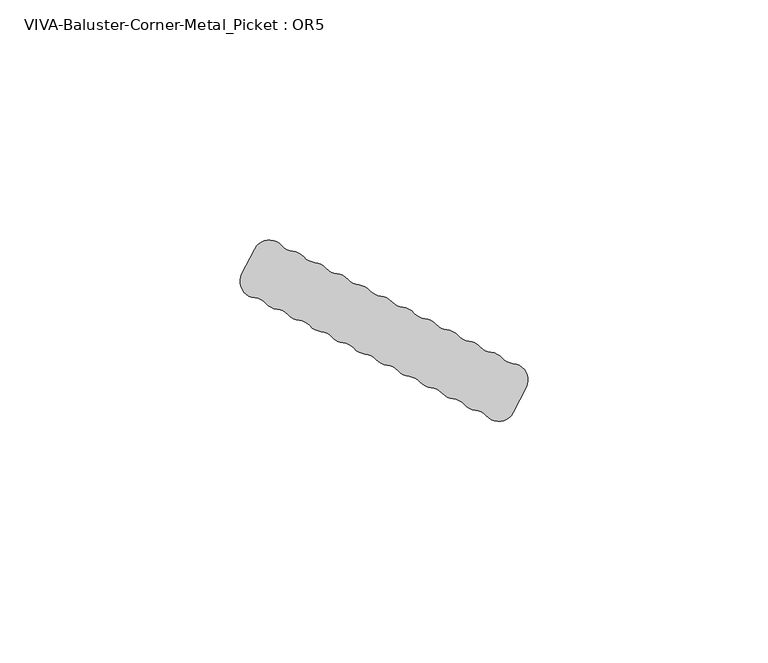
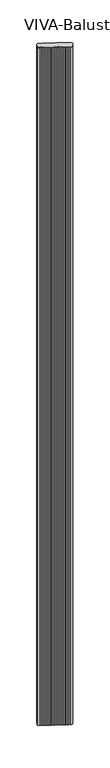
"""IFC4 building model written with IfcOpenShell, lengths in millimetres: railing geometry, VIVA-Baluster-Corner-Metal_Picket : OR5."""

from ifc_helpers import new_model, si_unit, frame, origin, place, context, project, spatial, polyline, circle_curve, source, transform, mapped, element, save
from ifc_brep_helpers import plane_surface, cylinder_surface, revolved_surface, advanced_brep


def viva_baluster_corner_metal_picket_or5_473d95c6(model_context):
    return source(origin(), model_context, "Body", "AdvancedBrep", [
        advanced_brep(
        [(51.8588779, 335.7330868, 1219.2), (54.5034557, 340.923363, 1219.2), (51.7410872, 345.9081721, 1219.2), (49.4477504, 347.0766856, 1219.2), (47.1544137, 348.245199, 1219.2), (44.861077, 349.4137124, 1219.2), (42.5677403, 350.5822258, 1219.2), (40.2744036, 351.7507392, 1219.2), (37.9810669, 352.9192527, 1219.2), (35.6877302, 354.0877661, 1219.2), (33.3943935, 355.2562795, 1219.2), (31.1010568, 356.4247929, 1219.2), (28.8077201, 357.5933063, 1219.2), (26.5143833, 358.7618197, 1219.2), (24.2210466, 359.9303332, 1219.2), (21.9277099, 361.0988466, 1219.2), (19.6343732, 362.26736, 1219.2), (17.3410365, 363.4358734, 1219.2), (15.0476998, 364.6043868, 1219.2), (12.7543631, 365.7729002, 1219.2), (10.4610264, 366.9414137, 1219.2), (8.1676897, 368.1099271, 1219.2), (5.874353, 369.2784405, 1219.2), (3.5810163, 370.4469539, 1219.2), (-2.0754586, 369.7517597, 1219.2), (-4.7200364, 364.5614835, 1219.2), (-1.9576678, 359.5766743, 1219.2), (0.3356689, 358.4081609, 1219.2), (2.6290056, 357.2396475, 1219.2), (4.9223423, 356.0711341, 1219.2), (7.215679, 354.9026207, 1219.2), (9.5090157, 353.7341072, 1219.2), (11.8023524, 352.5655938, 1219.2), (14.0956891, 351.3970804, 1219.2), (16.3890258, 350.228567, 1219.2), (18.6823625, 349.0600536, 1219.2), (20.9756993, 347.8915401, 1219.2), (23.269036, 346.7230267, 1219.2), (25.5623727, 345.5545133, 1219.2), (27.8557094, 344.3859999, 1219.2), (30.1490461, 343.2174865, 1219.2), (32.4423828, 342.0489731, 1219.2), (34.7357195, 340.8804596, 1219.2), (37.0290562, 339.7119462, 1219.2), (39.3223929, 338.5434328, 1219.2), (41.6157296, 337.3749194, 1219.2), (43.9090663, 336.206406, 1219.2), (46.2024031, 335.0378926, 1219.2), (51.8588779, 335.7330868, -245.8945017), (46.2024031, 335.0378926, -245.8945017), (43.9090663, 336.206406, -245.8945017), (41.6157296, 337.3749194, -245.8945017), (39.3223929, 338.5434328, -245.8945017), (37.0290562, 339.7119462, -245.8945017), (34.7357195, 340.8804596, -245.8945017), (32.4423828, 342.0489731, -245.8945017), (30.1490461, 343.2174865, -245.8945017), (27.8557094, 344.3859999, -245.8945017), (25.5623727, 345.5545133, -245.8945017), (23.269036, 346.7230267, -245.8945017), (20.9756993, 347.8915401, -245.8945017), (18.6823625, 349.0600536, -245.8945017), (16.3890258, 350.228567, -245.8945017), (14.0956891, 351.3970804, -245.8945017), (11.8023524, 352.5655938, -245.8945017), (9.5090157, 353.7341072, -245.8945017), (7.215679, 354.9026207, -245.8945017), (4.9223423, 356.0711341, -245.8945017), (2.6290056, 357.2396475, -245.8945017), (0.3356689, 358.4081609, -245.8945017), (-1.9576678, 359.5766743, -245.8945017), (-4.7200364, 364.5614835, -245.8945017), (-2.0754586, 369.7517597, -245.8945017), (3.5810163, 370.4469539, -245.8945017), (5.874353, 369.2784405, -245.8945017), (8.1676897, 368.1099271, -245.8945017), (10.4610264, 366.9414137, -245.8945017), (12.7543631, 365.7729002, -245.8945017), (15.0476998, 364.6043868, -245.8945017), (17.3410365, 363.4358734, -245.8945017), (19.6343732, 362.26736, -245.8945017), (21.9277099, 361.0988466, -245.8945017), (24.2210466, 359.9303332, -245.8945017), (26.5143833, 358.7618197, -245.8945017), (28.8077201, 357.5933063, -245.8945017), (31.1010568, 356.4247929, -245.8945017), (33.3943935, 355.2562795, -245.8945017), (35.6877302, 354.0877661, -245.8945017), (37.9810669, 352.9192527, -245.8945017), (40.2744036, 351.7507392, -245.8945017), (42.5677403, 350.5822258, -245.8945017), (44.861077, 349.4137124, -245.8945017), (47.1544137, 348.245199, -245.8945017), (49.4477504, 347.0766856, -245.8945017), (51.7410872, 345.9081721, -245.8945017), (54.5034557, 340.923363, -245.8945017)],
        [
            (0, 1),
            (1, 2, circle_curve(frame((51.4407024, 342.4839137, 1219.2), z_axis=(0.0, 0.0, 1.0), x_axis=(1.0, 0.0, 0.0)), 3.4374084)),
            (2, 3, circle_curve(frame((52.0414719, 349.3324306, 1219.2), z_axis=(0.0, 0.0, -1.0), x_axis=(1.0, 0.0, 0.0)), 3.4374084)),
            (3, 4, circle_curve(frame((46.8540289, 344.8209406, 1219.2), z_axis=(0.0, 0.0, 1.0), x_axis=(1.0, 0.0, 0.0)), 3.4374084)),
            (4, 5, circle_curve(frame((47.4547985, 351.6694574, 1219.2), z_axis=(0.0, 0.0, -1.0), x_axis=(1.0, 0.0, 0.0)), 3.4374084)),
            (5, 6, circle_curve(frame((42.2673555, 347.1579674, 1219.2), z_axis=(0.0, 0.0, 1.0), x_axis=(1.0, 0.0, 0.0)), 3.4374084)),
            (6, 7, circle_curve(frame((42.8681251, 354.0064842, 1219.2), z_axis=(0.0, 0.0, -1.0), x_axis=(1.0, 0.0, 0.0)), 3.4374084)),
            (7, 8, circle_curve(frame((37.6806821, 349.4949942, 1219.2), z_axis=(0.0, 0.0, 1.0), x_axis=(1.0, 0.0, 0.0)), 3.4374084)),
            (8, 9, circle_curve(frame((38.2814517, 356.3435111, 1219.2), z_axis=(0.0, 0.0, -1.0), x_axis=(1.0, 0.0, 0.0)), 3.4374084)),
            (9, 10, circle_curve(frame((33.0940087, 351.8320211, 1219.2), z_axis=(0.0, 0.0, 1.0), x_axis=(1.0, 0.0, 0.0)), 3.4374084)),
            (10, 11, circle_curve(frame((33.6947783, 358.6805379, 1219.2), z_axis=(0.0, 0.0, -1.0), x_axis=(1.0, 0.0, 0.0)), 3.4374084)),
            (11, 12, circle_curve(frame((28.5073353, 354.1690479, 1219.2), z_axis=(0.0, 0.0, 1.0), x_axis=(1.0, 0.0, 0.0)), 3.4374084)),
            (12, 13, circle_curve(frame((29.1081049, 361.0175647, 1219.2), z_axis=(0.0, 0.0, -1.0), x_axis=(1.0, 0.0, 0.0)), 3.4374084)),
            (13, 14, circle_curve(frame((23.9206618, 356.5060747, 1219.2), z_axis=(0.0, 0.0, 1.0), x_axis=(1.0, 0.0, 0.0)), 3.4374084)),
            (14, 15, circle_curve(frame((24.5214314, 363.3545916, 1219.2), z_axis=(0.0, 0.0, -1.0), x_axis=(1.0, 0.0, 0.0)), 3.4374084)),
            (15, 16, circle_curve(frame((19.3339884, 358.8431016, 1219.2), z_axis=(0.0, 0.0, 1.0), x_axis=(1.0, 0.0, 0.0)), 3.4374084)),
            (16, 17, circle_curve(frame((19.934758, 365.6916184, 1219.2), z_axis=(0.0, 0.0, -1.0), x_axis=(1.0, 0.0, 0.0)), 3.4374084)),
            (17, 18, circle_curve(frame((14.747315, 361.1801284, 1219.2), z_axis=(0.0, 0.0, 1.0), x_axis=(1.0, 0.0, 0.0)), 3.4374084)),
            (18, 19, circle_curve(frame((15.3480846, 368.0286452, 1219.2), z_axis=(0.0, 0.0, -1.0), x_axis=(1.0, 0.0, 0.0)), 3.4374084)),
            (19, 20, circle_curve(frame((10.1606416, 363.5171552, 1219.2), z_axis=(0.0, 0.0, 1.0), x_axis=(1.0, 0.0, 0.0)), 3.4374084)),
            (20, 21, circle_curve(frame((10.7614112, 370.3656721, 1219.2), z_axis=(0.0, 0.0, -1.0), x_axis=(1.0, 0.0, 0.0)), 3.4374084)),
            (21, 22, circle_curve(frame((5.5739682, 365.8541821, 1219.2), z_axis=(0.0, 0.0, 1.0), x_axis=(1.0, 0.0, 0.0)), 3.4374084)),
            (22, 23, circle_curve(frame((6.1747378, 372.7026989, 1219.2), z_axis=(0.0, 0.0, -1.0), x_axis=(1.0, 0.0, 0.0)), 3.4374084)),
            (23, 24, circle_curve(frame((0.9872948, 368.1912089, 1219.2), z_axis=(0.0, 0.0, 1.0), x_axis=(1.0, 0.0, 0.0)), 3.4374084)),
            (24, 25),
            (25, 26, circle_curve(frame((-1.657283, 363.0009327, 1219.2), z_axis=(0.0, 0.0, 1.0), x_axis=(1.0, 0.0, 0.0)), 3.4374084)),
            (26, 27, circle_curve(frame((-2.2580526, 356.1524159, 1219.2), z_axis=(0.0, 0.0, -1.0), x_axis=(1.0, 0.0, 0.0)), 3.4374084)),
            (27, 28, circle_curve(frame((2.9293904, 360.6639059, 1219.2), z_axis=(0.0, 0.0, 1.0), x_axis=(1.0, 0.0, 0.0)), 3.4374084)),
            (28, 29, circle_curve(frame((2.3286208, 353.8153891, 1219.2), z_axis=(0.0, 0.0, -1.0), x_axis=(1.0, 0.0, 0.0)), 3.4374084)),
            (29, 30, circle_curve(frame((7.5160638, 358.3268791, 1219.2), z_axis=(0.0, 0.0, 1.0), x_axis=(1.0, 0.0, 0.0)), 3.4374084)),
            (30, 31, circle_curve(frame((6.9152942, 351.4783622, 1219.2), z_axis=(0.0, 0.0, -1.0), x_axis=(1.0, 0.0, 0.0)), 3.4374084)),
            (31, 32, circle_curve(frame((12.1027372, 355.9898522, 1219.2), z_axis=(0.0, 0.0, 1.0), x_axis=(1.0, 0.0, 0.0)), 3.4374084)),
            (32, 33, circle_curve(frame((11.5019676, 349.1413354, 1219.2), z_axis=(0.0, 0.0, -1.0), x_axis=(1.0, 0.0, 0.0)), 3.4374084)),
            (33, 34, circle_curve(frame((16.6894106, 353.6528254, 1219.2), z_axis=(0.0, 0.0, 1.0), x_axis=(1.0, 0.0, 0.0)), 3.4374084)),
            (34, 35, circle_curve(frame((16.088641, 346.8043086, 1219.2), z_axis=(0.0, 0.0, -1.0), x_axis=(1.0, 0.0, 0.0)), 3.4374084)),
            (35, 36, circle_curve(frame((21.276084, 351.3157986, 1219.2), z_axis=(0.0, 0.0, 1.0), x_axis=(1.0, 0.0, 0.0)), 3.4374084)),
            (36, 37, circle_curve(frame((20.6753145, 344.4672817, 1219.2), z_axis=(0.0, 0.0, -1.0), x_axis=(1.0, 0.0, 0.0)), 3.4374084)),
            (37, 38, circle_curve(frame((25.8627575, 348.9787717, 1219.2), z_axis=(0.0, 0.0, 1.0), x_axis=(1.0, 0.0, 0.0)), 3.4374084)),
            (38, 39, circle_curve(frame((25.2619879, 342.1302549, 1219.2), z_axis=(0.0, 0.0, -1.0), x_axis=(1.0, 0.0, 0.0)), 3.4374084)),
            (39, 40, circle_curve(frame((30.4494309, 346.6417449, 1219.2), z_axis=(0.0, 0.0, 1.0), x_axis=(1.0, 0.0, 0.0)), 3.4374084)),
            (40, 41, circle_curve(frame((29.8486613, 339.7932281, 1219.2), z_axis=(0.0, 0.0, -1.0), x_axis=(1.0, 0.0, 0.0)), 3.4374084)),
            (41, 42, circle_curve(frame((35.0361043, 344.3047181, 1219.2), z_axis=(0.0, 0.0, 1.0), x_axis=(1.0, 0.0, 0.0)), 3.4374084)),
            (42, 43, circle_curve(frame((34.4353347, 337.4562012, 1219.2), z_axis=(0.0, 0.0, -1.0), x_axis=(1.0, 0.0, 0.0)), 3.4374084)),
            (43, 44, circle_curve(frame((39.6227777, 341.9676912, 1219.2), z_axis=(0.0, 0.0, 1.0), x_axis=(1.0, 0.0, 0.0)), 3.4374084)),
            (44, 45, circle_curve(frame((39.0220081, 335.1191744, 1219.2), z_axis=(0.0, 0.0, -1.0), x_axis=(1.0, 0.0, 0.0)), 3.4374084)),
            (45, 46, circle_curve(frame((44.2094511, 339.6306644, 1219.2), z_axis=(0.0, 0.0, 1.0), x_axis=(1.0, 0.0, 0.0)), 3.4374084)),
            (46, 47, circle_curve(frame((43.6086816, 332.7821476, 1219.2), z_axis=(0.0, 0.0, -1.0), x_axis=(1.0, 0.0, 0.0)), 3.4374084)),
            (47, 0, circle_curve(frame((48.7961246, 337.2936376, 1219.2), z_axis=(0.0, 0.0, 1.0), x_axis=(1.0, 0.0, 0.0)), 3.4374084)),
            (48, 49, circle_curve(frame((48.7961246, 337.2936376, -245.8945017), z_axis=(0.0, 0.0, -1.0), x_axis=(1.0, 0.0, 0.0)), 3.4374084)),
            (49, 50, circle_curve(frame((43.6086816, 332.7821476, -245.8945017), z_axis=(0.0, 0.0, 1.0), x_axis=(1.0, 0.0, 0.0)), 3.4374084)),
            (50, 51, circle_curve(frame((44.2094511, 339.6306644, -245.8945017), z_axis=(0.0, 0.0, -1.0), x_axis=(1.0, 0.0, 0.0)), 3.4374084)),
            (51, 52, circle_curve(frame((39.0220081, 335.1191744, -245.8945017), z_axis=(0.0, 0.0, 1.0), x_axis=(1.0, 0.0, 0.0)), 3.4374084)),
            (52, 53, circle_curve(frame((39.6227777, 341.9676912, -245.8945017), z_axis=(0.0, 0.0, -1.0), x_axis=(1.0, 0.0, 0.0)), 3.4374084)),
            (53, 54, circle_curve(frame((34.4353347, 337.4562012, -245.8945017), z_axis=(0.0, 0.0, 1.0), x_axis=(1.0, 0.0, 0.0)), 3.4374084)),
            (54, 55, circle_curve(frame((35.0361043, 344.3047181, -245.8945017), z_axis=(0.0, 0.0, -1.0), x_axis=(1.0, 0.0, 0.0)), 3.4374084)),
            (55, 56, circle_curve(frame((29.8486613, 339.7932281, -245.8945017), z_axis=(0.0, 0.0, 1.0), x_axis=(1.0, 0.0, 0.0)), 3.4374084)),
            (56, 57, circle_curve(frame((30.4494309, 346.6417449, -245.8945017), z_axis=(0.0, 0.0, -1.0), x_axis=(1.0, 0.0, 0.0)), 3.4374084)),
            (57, 58, circle_curve(frame((25.2619879, 342.1302549, -245.8945017), z_axis=(0.0, 0.0, 1.0), x_axis=(1.0, 0.0, 0.0)), 3.4374084)),
            (58, 59, circle_curve(frame((25.8627575, 348.9787717, -245.8945017), z_axis=(0.0, 0.0, -1.0), x_axis=(1.0, 0.0, 0.0)), 3.4374084)),
            (59, 60, circle_curve(frame((20.6753145, 344.4672817, -245.8945017), z_axis=(0.0, 0.0, 1.0), x_axis=(1.0, 0.0, 0.0)), 3.4374084)),
            (60, 61, circle_curve(frame((21.276084, 351.3157986, -245.8945017), z_axis=(0.0, 0.0, -1.0), x_axis=(1.0, 0.0, 0.0)), 3.4374084)),
            (61, 62, circle_curve(frame((16.088641, 346.8043086, -245.8945017), z_axis=(0.0, 0.0, 1.0), x_axis=(1.0, 0.0, 0.0)), 3.4374084)),
            (62, 63, circle_curve(frame((16.6894106, 353.6528254, -245.8945017), z_axis=(0.0, 0.0, -1.0), x_axis=(1.0, 0.0, 0.0)), 3.4374084)),
            (63, 64, circle_curve(frame((11.5019676, 349.1413354, -245.8945017), z_axis=(0.0, 0.0, 1.0), x_axis=(1.0, 0.0, 0.0)), 3.4374084)),
            (64, 65, circle_curve(frame((12.1027372, 355.9898522, -245.8945017), z_axis=(0.0, 0.0, -1.0), x_axis=(1.0, 0.0, 0.0)), 3.4374084)),
            (65, 66, circle_curve(frame((6.9152942, 351.4783622, -245.8945017), z_axis=(0.0, 0.0, 1.0), x_axis=(1.0, 0.0, 0.0)), 3.4374084)),
            (66, 67, circle_curve(frame((7.5160638, 358.3268791, -245.8945017), z_axis=(0.0, 0.0, -1.0), x_axis=(1.0, 0.0, 0.0)), 3.4374084)),
            (67, 68, circle_curve(frame((2.3286208, 353.8153891, -245.8945017), z_axis=(0.0, 0.0, 1.0), x_axis=(1.0, 0.0, 0.0)), 3.4374084)),
            (68, 69, circle_curve(frame((2.9293904, 360.6639059, -245.8945017), z_axis=(0.0, 0.0, -1.0), x_axis=(1.0, 0.0, 0.0)), 3.4374084)),
            (69, 70, circle_curve(frame((-2.2580526, 356.1524159, -245.8945017), z_axis=(0.0, 0.0, 1.0), x_axis=(1.0, 0.0, 0.0)), 3.4374084)),
            (70, 71, circle_curve(frame((-1.657283, 363.0009327, -245.8945017), z_axis=(0.0, 0.0, -1.0), x_axis=(1.0, 0.0, 0.0)), 3.4374084)),
            (71, 72),
            (72, 73, circle_curve(frame((0.9872948, 368.1912089, -245.8945017), z_axis=(0.0, 0.0, -1.0), x_axis=(1.0, 0.0, 0.0)), 3.4374084)),
            (73, 74, circle_curve(frame((6.1747378, 372.7026989, -245.8945017), z_axis=(0.0, 0.0, 1.0), x_axis=(1.0, 0.0, 0.0)), 3.4374084)),
            (74, 75, circle_curve(frame((5.5739682, 365.8541821, -245.8945017), z_axis=(0.0, 0.0, -1.0), x_axis=(1.0, 0.0, 0.0)), 3.4374084)),
            (75, 76, circle_curve(frame((10.7614112, 370.3656721, -245.8945017), z_axis=(0.0, 0.0, 1.0), x_axis=(1.0, 0.0, 0.0)), 3.4374084)),
            (76, 77, circle_curve(frame((10.1606416, 363.5171552, -245.8945017), z_axis=(0.0, 0.0, -1.0), x_axis=(1.0, 0.0, 0.0)), 3.4374084)),
            (77, 78, circle_curve(frame((15.3480846, 368.0286452, -245.8945017), z_axis=(0.0, 0.0, 1.0), x_axis=(1.0, 0.0, 0.0)), 3.4374084)),
            (78, 79, circle_curve(frame((14.747315, 361.1801284, -245.8945017), z_axis=(0.0, 0.0, -1.0), x_axis=(1.0, 0.0, 0.0)), 3.4374084)),
            (79, 80, circle_curve(frame((19.934758, 365.6916184, -245.8945017), z_axis=(0.0, 0.0, 1.0), x_axis=(1.0, 0.0, 0.0)), 3.4374084)),
            (80, 81, circle_curve(frame((19.3339884, 358.8431016, -245.8945017), z_axis=(0.0, 0.0, -1.0), x_axis=(1.0, 0.0, 0.0)), 3.4374084)),
            (81, 82, circle_curve(frame((24.5214314, 363.3545916, -245.8945017), z_axis=(0.0, 0.0, 1.0), x_axis=(1.0, 0.0, 0.0)), 3.4374084)),
            (82, 83, circle_curve(frame((23.9206618, 356.5060747, -245.8945017), z_axis=(0.0, 0.0, -1.0), x_axis=(1.0, 0.0, 0.0)), 3.4374084)),
            (83, 84, circle_curve(frame((29.1081049, 361.0175647, -245.8945017), z_axis=(0.0, 0.0, 1.0), x_axis=(1.0, 0.0, 0.0)), 3.4374084)),
            (84, 85, circle_curve(frame((28.5073353, 354.1690479, -245.8945017), z_axis=(0.0, 0.0, -1.0), x_axis=(1.0, 0.0, 0.0)), 3.4374084)),
            (85, 86, circle_curve(frame((33.6947783, 358.6805379, -245.8945017), z_axis=(0.0, 0.0, 1.0), x_axis=(1.0, 0.0, 0.0)), 3.4374084)),
            (86, 87, circle_curve(frame((33.0940087, 351.8320211, -245.8945017), z_axis=(0.0, 0.0, -1.0), x_axis=(1.0, 0.0, 0.0)), 3.4374084)),
            (87, 88, circle_curve(frame((38.2814517, 356.3435111, -245.8945017), z_axis=(0.0, 0.0, 1.0), x_axis=(1.0, 0.0, 0.0)), 3.4374084)),
            (88, 89, circle_curve(frame((37.6806821, 349.4949942, -245.8945017), z_axis=(0.0, 0.0, -1.0), x_axis=(1.0, 0.0, 0.0)), 3.4374084)),
            (89, 90, circle_curve(frame((42.8681251, 354.0064842, -245.8945017), z_axis=(0.0, 0.0, 1.0), x_axis=(1.0, 0.0, 0.0)), 3.4374084)),
            (90, 91, circle_curve(frame((42.2673555, 347.1579674, -245.8945017), z_axis=(0.0, 0.0, -1.0), x_axis=(1.0, 0.0, 0.0)), 3.4374084)),
            (91, 92, circle_curve(frame((47.4547985, 351.6694574, -245.8945017), z_axis=(0.0, 0.0, 1.0), x_axis=(1.0, 0.0, 0.0)), 3.4374084)),
            (92, 93, circle_curve(frame((46.8540289, 344.8209406, -245.8945017), z_axis=(0.0, 0.0, -1.0), x_axis=(1.0, 0.0, 0.0)), 3.4374084)),
            (93, 94, circle_curve(frame((52.0414719, 349.3324306, -245.8945017), z_axis=(0.0, 0.0, 1.0), x_axis=(1.0, 0.0, 0.0)), 3.4374084)),
            (94, 95, circle_curve(frame((51.4407024, 342.4839137, -245.8945017), z_axis=(0.0, 0.0, -1.0), x_axis=(1.0, 0.0, 0.0)), 3.4374084)),
            (95, 48),
            (0, 48),
            (95, 1),
            (94, 2),
            (93, 3),
            (92, 4),
            (91, 5),
            (90, 6),
            (89, 7),
            (88, 8),
            (87, 9),
            (86, 10),
            (85, 11),
            (84, 12),
            (83, 13),
            (82, 14),
            (81, 15),
            (80, 16),
            (79, 17),
            (78, 18),
            (77, 19),
            (76, 20),
            (75, 21),
            (74, 22),
            (73, 23),
            (72, 24),
            (71, 25),
            (70, 26),
            (69, 27),
            (68, 28),
            (67, 29),
            (66, 30),
            (65, 31),
            (64, 32),
            (63, 33),
            (62, 34),
            (61, 35),
            (60, 36),
            (59, 37),
            (58, 38),
            (57, 39),
            (56, 40),
            (55, 41),
            (54, 42),
            (53, 43),
            (52, 44),
            (51, 45),
            (50, 46),
            (49, 47),
        ],
        [
            plane_surface(frame((51.8588779, 335.7330868, 1219.2), z_axis=(0.0, 0.0, 1.0), x_axis=(0.45399049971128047, 0.8910065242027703, 0.0))),
            plane_surface(frame((51.8588779, 335.7330868, -245.8945017), z_axis=(0.0, 0.0, -1.0), x_axis=(-0.45399049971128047, -0.8910065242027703, 0.0))),
            plane_surface(frame((51.8588779, 335.7330868, 1219.2), z_axis=(0.8910065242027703, -0.45399049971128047, 0.0), x_axis=(0.0, 0.0, -1.0))),
            cylinder_surface(frame((51.4407024, 342.4839137, -245.8945017), z_axis=(0.0, 0.0, 1.0), x_axis=(1.0, 0.0, 0.0)), 3.4374084),
            revolved_surface(polyline([(55.4788803, 349.3324306, -245.8945017), (55.4788803, 349.3324306, 1219.2)]), (52.0414719, 349.3324306, -245.8945017), (0.0, 0.0, -1.0)),
            cylinder_surface(frame((46.8540289, 344.8209406, -245.8945017), z_axis=(0.0, 0.0, 1.0), x_axis=(1.0, 0.0, 0.0)), 3.4374084),
            revolved_surface(polyline([(50.892206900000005, 351.6694574, -245.8945017), (50.892206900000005, 351.6694574, 1219.2)]), (47.4547985, 351.6694574, -245.8945017), (0.0, 0.0, -1.0)),
            cylinder_surface(frame((42.2673555, 347.1579674, -245.8945017), z_axis=(0.0, 0.0, 1.0), x_axis=(1.0, 0.0, 0.0)), 3.4374084),
            revolved_surface(polyline([(46.3055335, 354.0064842, -245.8945017), (46.3055335, 354.0064842, 1219.2)]), (42.8681251, 354.0064842, -245.8945017), (0.0, 0.0, -1.0)),
            cylinder_surface(frame((37.6806821, 349.4949942, -245.8945017), z_axis=(0.0, 0.0, 1.0), x_axis=(1.0, 0.0, 0.0)), 3.4374084),
            revolved_surface(polyline([(41.7188601, 356.3435111, -245.8945017), (41.7188601, 356.3435111, 1219.2)]), (38.2814517, 356.3435111, -245.8945017), (0.0, 0.0, -1.0)),
            cylinder_surface(frame((33.0940087, 351.8320211, -245.8945017), z_axis=(0.0, 0.0, 1.0), x_axis=(1.0, 0.0, 0.0)), 3.4374084),
            revolved_surface(polyline([(37.132186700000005, 358.6805379, -245.8945017), (37.132186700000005, 358.6805379, 1219.2)]), (33.6947783, 358.6805379, -245.8945017), (0.0, 0.0, -1.0)),
            cylinder_surface(frame((28.5073353, 354.1690479, -245.8945017), z_axis=(0.0, 0.0, 1.0), x_axis=(1.0, 0.0, 0.0)), 3.4374084),
            revolved_surface(polyline([(32.5455133, 361.0175647, -245.8945017), (32.5455133, 361.0175647, 1219.2)]), (29.1081049, 361.0175647, -245.8945017), (0.0, 0.0, -1.0)),
            cylinder_surface(frame((23.9206618, 356.5060747, -245.8945017), z_axis=(0.0, 0.0, 1.0), x_axis=(1.0, 0.0, 0.0)), 3.4374084),
            revolved_surface(polyline([(27.9588398, 363.3545916, -245.8945017), (27.9588398, 363.3545916, 1219.2)]), (24.5214314, 363.3545916, -245.8945017), (0.0, 0.0, -1.0)),
            cylinder_surface(frame((19.3339884, 358.8431016, -245.8945017), z_axis=(0.0, 0.0, 1.0), x_axis=(1.0, 0.0, 0.0)), 3.4374084),
            revolved_surface(polyline([(23.372166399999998, 365.6916184, -245.8945017), (23.372166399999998, 365.6916184, 1219.2)]), (19.934758, 365.6916184, -245.8945017), (0.0, 0.0, -1.0)),
            cylinder_surface(frame((14.747315, 361.1801284, -245.8945017), z_axis=(0.0, 0.0, 1.0), x_axis=(1.0, 0.0, 0.0)), 3.4374084),
            revolved_surface(polyline([(18.785493, 368.0286452, -245.8945017), (18.785493, 368.0286452, 1219.2)]), (15.3480846, 368.0286452, -245.8945017), (0.0, 0.0, -1.0)),
            cylinder_surface(frame((10.1606416, 363.5171552, -245.8945017), z_axis=(0.0, 0.0, 1.0), x_axis=(1.0, 0.0, 0.0)), 3.4374084),
            revolved_surface(polyline([(14.1988196, 370.3656721, -245.8945017), (14.1988196, 370.3656721, 1219.2)]), (10.7614112, 370.3656721, -245.8945017), (0.0, 0.0, -1.0)),
            cylinder_surface(frame((5.5739682, 365.8541821, -245.8945017), z_axis=(0.0, 0.0, 1.0), x_axis=(1.0, 0.0, 0.0)), 3.4374084),
            revolved_surface(polyline([(9.6121462, 372.7026989, -245.8945017), (9.6121462, 372.7026989, 1219.2)]), (6.1747378, 372.7026989, -245.8945017), (0.0, 0.0, -1.0)),
            cylinder_surface(frame((0.9872948, 368.1912089, -245.8945017), z_axis=(0.0, 0.0, 1.0), x_axis=(1.0, 0.0, 0.0)), 3.4374084),
            plane_surface(frame((-2.0754586, 369.7517597, 1219.2), z_axis=(-0.8910065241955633, 0.4539904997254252, 0.0), x_axis=(0.0, 0.0, -1.0))),
            cylinder_surface(frame((-1.657283, 363.0009327, -245.8945017), z_axis=(0.0, 0.0, 1.0), x_axis=(1.0, 0.0, 0.0)), 3.4374084),
            revolved_surface(polyline([(1.1793557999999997, 356.1524159, -245.8945017), (1.1793557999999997, 356.1524159, 1219.2)]), (-2.2580526, 356.1524159, -245.8945017), (0.0, 0.0, -1.0)),
            cylinder_surface(frame((2.9293904, 360.6639059, -245.8945017), z_axis=(0.0, 0.0, 1.0), x_axis=(1.0, 0.0, 0.0)), 3.4374084),
            revolved_surface(polyline([(5.7660292, 353.8153891, -245.8945017), (5.7660292, 353.8153891, 1219.2)]), (2.3286208, 353.8153891, -245.8945017), (0.0, 0.0, -1.0)),
            cylinder_surface(frame((7.5160638, 358.3268791, -245.8945017), z_axis=(0.0, 0.0, 1.0), x_axis=(1.0, 0.0, 0.0)), 3.4374084),
            revolved_surface(polyline([(10.3527026, 351.4783622, -245.8945017), (10.3527026, 351.4783622, 1219.2)]), (6.9152942, 351.4783622, -245.8945017), (0.0, 0.0, -1.0)),
            cylinder_surface(frame((12.1027372, 355.9898522, -245.8945017), z_axis=(0.0, 0.0, 1.0), x_axis=(1.0, 0.0, 0.0)), 3.4374084),
            revolved_surface(polyline([(14.939376, 349.1413354, -245.8945017), (14.939376, 349.1413354, 1219.2)]), (11.5019676, 349.1413354, -245.8945017), (0.0, 0.0, -1.0)),
            cylinder_surface(frame((16.6894106, 353.6528254, -245.8945017), z_axis=(0.0, 0.0, 1.0), x_axis=(1.0, 0.0, 0.0)), 3.4374084),
            revolved_surface(polyline([(19.526049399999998, 346.8043086, -245.8945017), (19.526049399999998, 346.8043086, 1219.2)]), (16.088641, 346.8043086, -245.8945017), (0.0, 0.0, -1.0)),
            cylinder_surface(frame((21.276084, 351.3157986, -245.8945017), z_axis=(0.0, 0.0, 1.0), x_axis=(1.0, 0.0, 0.0)), 3.4374084),
            revolved_surface(polyline([(24.112722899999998, 344.4672817, -245.8945017), (24.112722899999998, 344.4672817, 1219.2)]), (20.6753145, 344.4672817, -245.8945017), (0.0, 0.0, -1.0)),
            cylinder_surface(frame((25.8627575, 348.9787717, -245.8945017), z_axis=(0.0, 0.0, 1.0), x_axis=(1.0, 0.0, 0.0)), 3.4374084),
            revolved_surface(polyline([(28.6993963, 342.1302549, -245.8945017), (28.6993963, 342.1302549, 1219.2)]), (25.2619879, 342.1302549, -245.8945017), (0.0, 0.0, -1.0)),
            cylinder_surface(frame((30.4494309, 346.6417449, -245.8945017), z_axis=(0.0, 0.0, 1.0), x_axis=(1.0, 0.0, 0.0)), 3.4374084),
            revolved_surface(polyline([(33.2860697, 339.7932281, -245.8945017), (33.2860697, 339.7932281, 1219.2)]), (29.8486613, 339.7932281, -245.8945017), (0.0, 0.0, -1.0)),
            cylinder_surface(frame((35.0361043, 344.3047181, -245.8945017), z_axis=(0.0, 0.0, 1.0), x_axis=(1.0, 0.0, 0.0)), 3.4374084),
            revolved_surface(polyline([(37.8727431, 337.4562012, -245.8945017), (37.8727431, 337.4562012, 1219.2)]), (34.4353347, 337.4562012, -245.8945017), (0.0, 0.0, -1.0)),
            cylinder_surface(frame((39.6227777, 341.9676912, -245.8945017), z_axis=(0.0, 0.0, 1.0), x_axis=(1.0, 0.0, 0.0)), 3.4374084),
            revolved_surface(polyline([(42.4594165, 335.1191744, -245.8945017), (42.4594165, 335.1191744, 1219.2)]), (39.0220081, 335.1191744, -245.8945017), (0.0, 0.0, -1.0)),
            cylinder_surface(frame((44.2094511, 339.6306644, -245.8945017), z_axis=(0.0, 0.0, 1.0), x_axis=(1.0, 0.0, 0.0)), 3.4374084),
            revolved_surface(polyline([(47.04609, 332.7821476, -245.8945017), (47.04609, 332.7821476, 1219.2)]), (43.6086816, 332.7821476, -245.8945017), (0.0, 0.0, -1.0)),
            cylinder_surface(frame((48.7961246, 337.2936376, -245.8945017), z_axis=(0.0, 0.0, 1.0), x_axis=(1.0, 0.0, 0.0)), 3.4374084),
        ],
        [
            (0, [[1, 2, 3, 4, 5, 6, 7, 8, 9, 10, 11, 12, 13, 14, 15, 16, 17, 18, 19, 20, 21, 22, 23, 24, 25, 26, 27, 28, 29, 30, 31, 32, 33, 34, 35, 36, 37, 38, 39, 40, 41, 42, 43, 44, 45, 46, 47, 48]]),
            (1, [[49, 50, 51, 52, 53, 54, 55, 56, 57, 58, 59, 60, 61, 62, 63, 64, 65, 66, 67, 68, 69, 70, 71, 72, 73, 74, 75, 76, 77, 78, 79, 80, 81, 82, 83, 84, 85, 86, 87, 88, 89, 90, 91, 92, 93, 94, 95, 96]]),
            (2, [[-1, 97, -96, 98]]),
            (3, [[-2, -98, -95, 99]]),
            (4, [[-3, -99, -94, 100]]),
            (5, [[-4, -100, -93, 101]]),
            (6, [[-5, -101, -92, 102]]),
            (7, [[-6, -102, -91, 103]]),
            (8, [[-7, -103, -90, 104]]),
            (9, [[-8, -104, -89, 105]]),
            (10, [[-9, -105, -88, 106]]),
            (11, [[-10, -106, -87, 107]]),
            (12, [[-11, -107, -86, 108]]),
            (13, [[-12, -108, -85, 109]]),
            (14, [[-13, -109, -84, 110]]),
            (15, [[-14, -110, -83, 111]]),
            (16, [[-15, -111, -82, 112]]),
            (17, [[-16, -112, -81, 113]]),
            (18, [[-17, -113, -80, 114]]),
            (19, [[-18, -114, -79, 115]]),
            (20, [[-19, -115, -78, 116]]),
            (21, [[-20, -116, -77, 117]]),
            (22, [[-21, -117, -76, 118]]),
            (23, [[-22, -118, -75, 119]]),
            (24, [[-23, -119, -74, 120]]),
            (25, [[-24, -120, -73, 121]]),
            (26, [[-25, -121, -72, 122]]),
            (27, [[-26, -122, -71, 123]]),
            (28, [[-27, -123, -70, 124]]),
            (29, [[-28, -124, -69, 125]]),
            (30, [[-29, -125, -68, 126]]),
            (31, [[-30, -126, -67, 127]]),
            (32, [[-31, -127, -66, 128]]),
            (33, [[-32, -128, -65, 129]]),
            (34, [[-33, -129, -64, 130]]),
            (35, [[-34, -130, -63, 131]]),
            (36, [[-35, -131, -62, 132]]),
            (37, [[-36, -132, -61, 133]]),
            (38, [[-37, -133, -60, 134]]),
            (39, [[-38, -134, -59, 135]]),
            (40, [[-39, -135, -58, 136]]),
            (41, [[-40, -136, -57, 137]]),
            (42, [[-41, -137, -56, 138]]),
            (43, [[-42, -138, -55, 139]]),
            (44, [[-43, -139, -54, 140]]),
            (45, [[-44, -140, -53, 141]]),
            (46, [[-45, -141, -52, 142]]),
            (47, [[-46, -142, -51, 143]]),
            (48, [[-47, -143, -50, 144]]),
            (49, [[-48, -144, -49, -97]]),
        ],
    ),
    ])


if __name__ == "__main__":
    model = new_model("IFC4")
    model_context = context("Model", 3, world=origin())
    ifc_project = project(units=[si_unit("LENGTHUNIT", "METRE", prefix="MILLI")], contexts=[model_context])
    site = spatial("IfcSite", under=ifc_project)
    building = spatial("IfcBuilding", under=site)
    placement = place(None, origin())
    viva_baluster_corner_metal_picket_or5_shape = viva_baluster_corner_metal_picket_or5_473d95c6(model_context)
    element("IfcRailing", 1, ObjectType="VIVA-Baluster-Corner-Metal_Picket : OR5", at=placement, inside=building, context=model_context, shape_type="MappedRepresentation", body=[
        mapped(viva_baluster_corner_metal_picket_or5_shape, transform((0.0, 0.0, 0.0), x_axis=(1.0, 0.0, 0.0), y_axis=(0.0, 1.0, 0.0), z_axis=(0.0, 0.0, 1.0))),
    ])
    save(model, "model.ifc")
